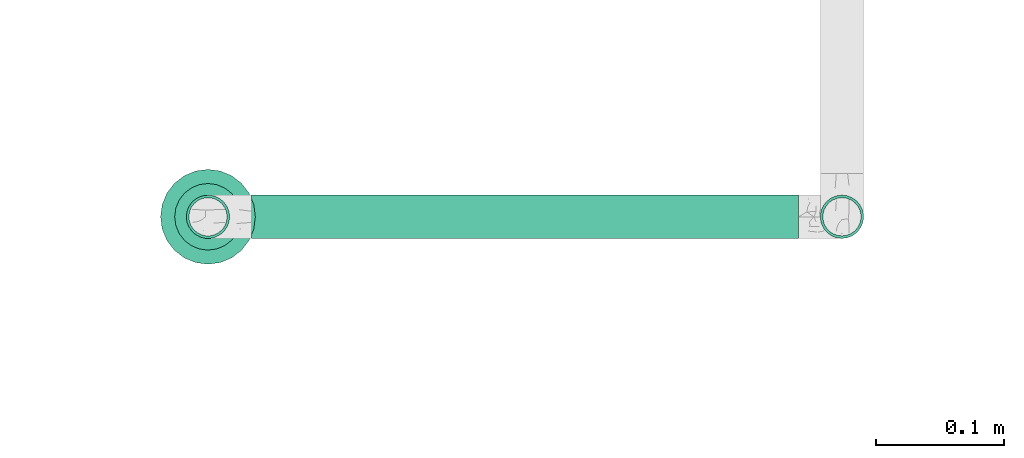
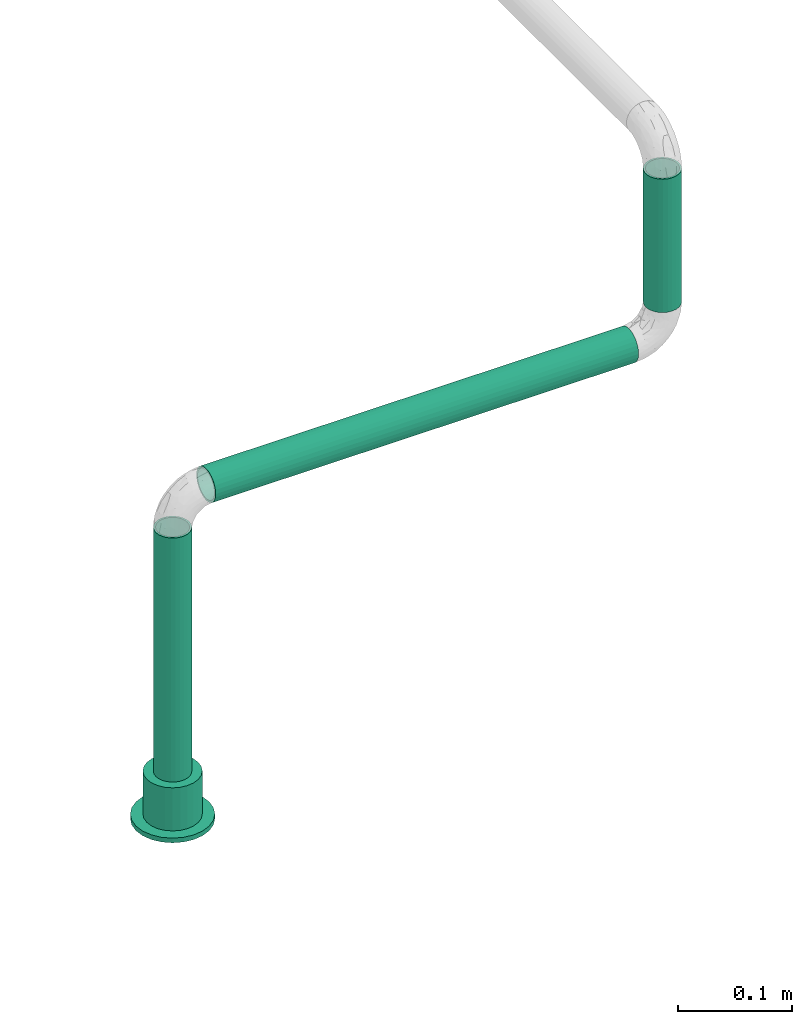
# One storey, part 30 of 95: 3 flow segments, 1 flow terminal.
"""IFC2X3 building model written with IfcOpenShell, lengths in millimetres."""

from ifc_helpers import new_model, entity, si_unit, converted_unit, derived_unit, direction, frame, origin_with_axes, origin_2d_with_axis, place, context, subcontext, project, spatial, hollow_circle, extrude, open_shell, surface_model, source, transform, mapped, type_object, element, save


model = new_model("IFC2X3")

# Units and contexts
model_context = context("Model", 3, precision=0.01, world=frame((0.0, 4.29681676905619e-09, 0.0)), true_north=direction((4.01073788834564e-13, 1.0)))
plan_context = context("Plan", 3, precision=0.01, world=frame((0.0, 4.29681676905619e-09, 0.0)), true_north=direction((4.01073788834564e-13, 1.0)))
body_context = subcontext(model_context, "Body", "Model", "MODEL_VIEW")
ifc_project = project(units=[converted_unit("PLANEANGLEUNIT", "DEGREE", entity("IfcPositiveLengthMeasure", 0.0174532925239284), si_unit("PLANEANGLEUNIT", "RADIAN"), dimensions=[0, 0, 0, 0, 0, 0, 0]), si_unit("AREAUNIT", "SQUARE_METRE"), si_unit("LENGTHUNIT", "METRE", prefix="MILLI"), si_unit("MASSUNIT", "GRAM", prefix="KILO"), si_unit("POWERUNIT", "WATT"), si_unit("PRESSUREUNIT", "PASCAL"), si_unit("FORCEUNIT", "NEWTON", prefix="KILO"), si_unit("ELECTRICVOLTAGEUNIT", "VOLT"), si_unit("ELECTRICCURRENTUNIT", "AMPERE"), si_unit("THERMODYNAMICTEMPERATUREUNIT", "DEGREE_CELSIUS"), si_unit("TIMEUNIT", "SECOND"), si_unit("VOLUMEUNIT", "CUBIC_METRE"), derived_unit("LINEARVELOCITYUNIT", [(si_unit("LENGTHUNIT", "METRE"), 1), (si_unit("TIMEUNIT", "SECOND"), -1)]), derived_unit("VOLUMETRICFLOWRATEUNIT", [(si_unit("VOLUMEUNIT", "CUBIC_METRE"), 1), (si_unit("TIMEUNIT", "SECOND"), -1)]), derived_unit("THERMALTRANSMITTANCEUNIT", [(si_unit("POWERUNIT", "WATT"), 1), (si_unit("THERMODYNAMICTEMPERATUREUNIT", "KELVIN"), -1), (si_unit("AREAUNIT", "SQUARE_METRE"), -1)]), derived_unit("SOUNDPRESSUREUNIT", [(si_unit("PRESSUREUNIT", "PASCAL"), 1)])], contexts=[model_context, plan_context])

# Site, building, storey
site_placement = place(None, frame((0.0, -4.29681676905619e-09, 0.0), z_axis=(0.0, 0.0, 1.0), x_axis=(1.0, 0.0, 0.0)))
site = spatial("IfcSite", under=ifc_project, at=site_placement, CompositionType="ELEMENT")
building_placement = place(site_placement, frame((0.0, 4.29681676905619e-09, 0.0), z_axis=(0.0, 0.0, 1.0), x_axis=(1.0, 0.0, 0.0)))
building = spatial("IfcBuilding", under=site, at=building_placement, Name="mc-building", CompositionType="ELEMENT")
storey_placement = place(building_placement, frame((0.0, 0.0, 210900.0), z_axis=(0.0, 0.0, 1.0), x_axis=(1.0, 0.0, 0.0)))
storey = spatial("IfcBuildingStorey", under=building, at=storey_placement, Name="Nivå F", CompositionType="ELEMENT", Elevation=210900.0)

# Flow segments
pipe_segment_type = type_object("IfcPipeSegmentType", Name="Stålrør normaltykke", PredefinedType="RIGIDSEGMENT")
shared_shape_1 = source(origin_with_axes(), body_context, "Body", "SweptSolid", [
    extrude(hollow_circle(Radius=16.9, WallThickness=2.0, at=origin_2d_with_axis()), frame((0.0, 0.0, 0.0), z_axis=(1.0, 0.0, 0.0), x_axis=(0.0, 1.0, 0.0)), (0.0, 0.0, 1.0), 427.2),
])
flow_segment_1_placement = place(storey_placement, frame((527354.1, 458598.02191, 4100.0), z_axis=(0.0, 0.0, 1.0), x_axis=(-1.0, 0.0, 0.0)))
element("IfcFlowSegment", 1, at=flow_segment_1_placement, inside=storey, type_object=pipe_segment_type, Name="Stålrør normaltykke", context=body_context, shape_type="MappedRepresentation", body=[
    mapped(shared_shape_1, transform((0.0, 0.0, 0.0), scale=1.0)),
])
shared_shape_2 = source(origin_with_axes(), body_context, "Body", "SweptSolid", [
    extrude(hollow_circle(Radius=16.9, WallThickness=2.0, at=origin_2d_with_axis()), frame((0.0, 0.0, 0.0), z_axis=(1.0, 0.0, 0.0), x_axis=(0.0, 1.0, 0.0)), (0.0, 0.0, 1.0), 296.9),
])
flow_segment_2_placement = place(storey_placement, frame((526893.09321, 458598.02191, 4066.20000000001), z_axis=(0.0, -1.0, 0.0), x_axis=(0.0, 0.0, -1.0)))
element("IfcFlowSegment", 2, at=flow_segment_2_placement, inside=storey, type_object=pipe_segment_type, Name="Stålrør normaltykke", context=body_context, shape_type="MappedRepresentation", body=[
    mapped(shared_shape_2, transform((0.0, 0.0, 0.0), scale=1.0)),
])
shared_shape_3 = source(origin_with_axes(), body_context, "Body", "SweptSolid", [
    extrude(hollow_circle(Radius=16.9, WallThickness=2.0, at=origin_2d_with_axis()), frame((0.0, 0.0, 0.0), z_axis=(1.0, 0.0, 0.0), x_axis=(0.0, 1.0, 0.0)), (0.0, 0.0, 1.0), 142.4),
])
flow_segment_3_placement = place(storey_placement, frame((527387.9, 458598.02191, 4276.20000000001), z_axis=(-1.0, 0.0, 0.0), x_axis=(0.0, 0.0, -1.0)))
element("IfcFlowSegment", 3, at=flow_segment_3_placement, inside=storey, type_object=pipe_segment_type, Name="Stålrør normaltykke", context=body_context, shape_type="MappedRepresentation", body=[
    mapped(shared_shape_3, transform((0.0, 0.0, 0.0), scale=1.0)),
])

# Flow terminal
fire_suppression_terminal_type = type_object("IfcFireSuppressionTerminalType", Name="68DGR-STD-SKJULT I HIMLING", PredefinedType="NOTDEFINED")
shared_shape_4 = source(origin_with_axes(), body_context, "Body", "SurfaceModel", [
    surface_model("IfcShellBasedSurfaceModel", [(-26.0, 0.0, -46.0), (-25.11407, -6.72929, -46.0), (-25.11407, -6.72929, 0.0), (6.72929, -25.11407, 0.0), (6.72929, -25.11407, -46.0), (13.0, -22.51666, -46.0), (22.51666, -13.0, -46.0), (22.51666, -13.0, 0.0), (18.38478, -18.38478, 0.0), (25.11407, -6.72929, 0.0), (25.11407, -6.72929, -46.0), (26.0, 0.0, -46.0), (26.0, 0.0, 0.0), (25.11407, 6.72929, -46.0), (22.51666, 13.0, 0.0), (25.11407, 6.72929, 0.0), (13.0, 22.51666, -46.0), (6.72929, 25.11407, -46.0), (6.72929, 25.11407, 0.0), (18.38478, 18.38478, 0.0), (22.51666, 13.0, -46.0), (-25.11407, 6.72929, 0.0), (-25.11407, 6.72929, -46.0), (-26.16295, -26.16295, 5.0), (35.73926, -9.57631, 5.0), (37.0, 0.0, 5.0), (13.0, 22.51666, 0.0), (-26.0, 0.0, 0.0), (-13.0, 22.51666, 0.0), (-6.72929, 25.11407, 0.0), (0.0, 26.0, 0.0), (-22.51666, 13.0, 0.0), (-18.38478, 18.38478, 0.0), (13.0, -22.51666, 0.0), (0.0, -26.0, 0.0), (-22.51666, -13.0, 0.0), (-18.38478, -18.38478, 0.0), (-13.0, -22.51666, 0.0), (-6.72929, -25.11407, 0.0), (0.0, -26.0, -46.0), (18.38478, -18.38478, -46.0), (-18.38478, -18.38478, -46.0), (-13.0, -22.51666, -46.0), (-6.72929, -25.11407, -46.0), (-22.51666, -13.0, -46.0), (18.38478, 18.38478, -46.0), (-22.51666, 13.0, -46.0), (-18.38478, 18.38478, -46.0), (-13.0, 22.51666, -46.0), (-6.72929, 25.11407, -46.0), (0.0, 26.0, -46.0), (18.5, 32.04294, 5.0), (9.57631, 35.73926, 5.0), (35.73926, 9.57631, 5.0), (26.16295, 26.16295, 5.0), (32.04294, 18.5, 5.0), (-35.73926, -9.57631, 5.0), (-18.5, 32.04294, 5.0), (-9.57631, 35.73926, 5.0), (0.0, 37.0, 5.0), (-32.04294, 18.5, 5.0), (-35.73926, 9.57631, 5.0), (-26.16295, 26.16295, 5.0), (-37.0, 0.0, 5.0), (32.04294, -18.5, 5.0), (0.0, -37.0, 5.0), (26.16295, -26.16295, 5.0), (18.5, -32.04294, 5.0), (9.57631, -35.73926, 5.0), (-9.57631, -35.73926, 5.0), (-32.04294, -18.5, 5.0), (-18.5, -32.04294, 5.0), (18.5, -32.04294, 0.0), (9.57631, -35.73926, 0.0), (0.0, -37.0, 0.0), (32.04294, -18.5, 0.0), (-26.16295, -26.16295, 0.0), (26.16295, -26.16295, 0.0), (-35.73926, 9.57631, 0.0), (-18.5, -32.04294, 0.0), (-9.57631, -35.73926, 0.0), (-32.04294, -18.5, 0.0), (-35.73926, -9.57631, 0.0), (-37.0, 0.0, 0.0), (35.73926, -9.57631, 0.0), (35.73926, 9.57631, 0.0), (32.04294, 18.5, 0.0), (18.5, 32.04294, 0.0), (9.57631, 35.73926, 0.0), (26.16295, 26.16295, 0.0), (-32.04294, 18.5, 0.0), (-26.16295, 26.16295, 0.0), (-9.57631, 35.73926, 0.0), (0.0, 37.0, 0.0), (-18.5, 32.04294, 0.0), (37.0, 0.0, 0.0)], [open_shell([[[0, 1, 2]], [[3, 4, 5]], [[6, 7, 8]], [[9, 7, 10]], [[11, 12, 9]], [[13, 14, 15]], [[15, 12, 11]], [[16, 17, 18]], [[19, 14, 20]], [[21, 22, 0]], [[23, 24, 25]], [[19, 26, 18]], [[19, 18, 21]], [[27, 15, 19]], [[14, 19, 15]], [[19, 21, 27]], [[28, 21, 29]], [[18, 30, 29]], [[31, 21, 32]], [[28, 32, 21]], [[29, 21, 18]], [[12, 15, 27]], [[8, 7, 9]], [[33, 8, 9]], [[34, 3, 33]], [[9, 34, 33]], [[27, 34, 9]], [[2, 35, 27]], [[36, 27, 35]], [[37, 38, 36]], [[34, 27, 36]], [[36, 38, 34]], [[12, 27, 9]], [[5, 4, 39]], [[5, 39, 22]], [[10, 6, 40]], [[5, 10, 40]], [[39, 41, 22]], [[42, 41, 43]], [[41, 39, 43]], [[1, 0, 44]], [[44, 0, 22]], [[22, 41, 44]], [[10, 5, 22]], [[45, 13, 10]], [[20, 13, 45]], [[17, 16, 45]], [[10, 22, 45]], [[45, 22, 17]], [[46, 47, 22]], [[48, 22, 47]], [[48, 49, 22]], [[49, 17, 22]], [[49, 50, 17]], [[11, 10, 13]], [[46, 22, 21]], [[46, 31, 47]], [[49, 48, 28]], [[32, 48, 47]], [[50, 49, 29]], [[21, 0, 27]], [[21, 31, 46]], [[31, 32, 47]], [[48, 32, 28]], [[28, 29, 49]], [[29, 30, 50]], [[16, 26, 45]], [[13, 20, 14]], [[19, 20, 45]], [[11, 13, 15]], [[30, 18, 17]], [[18, 26, 16]], [[26, 19, 45]], [[50, 30, 17]], [[11, 9, 10]], [[10, 7, 6]], [[3, 39, 4]], [[6, 8, 40]], [[3, 5, 33]], [[8, 33, 5]], [[5, 40, 8]], [[3, 34, 39]], [[42, 43, 38]], [[42, 37, 41]], [[1, 44, 35]], [[36, 44, 41]], [[34, 38, 43]], [[38, 37, 42]], [[37, 36, 41]], [[36, 35, 44]], [[1, 35, 2]], [[2, 27, 0]], [[39, 34, 43]], [[51, 52, 53]], [[54, 51, 55]], [[56, 52, 57]], [[55, 51, 53]], [[52, 56, 53]], [[58, 57, 59]], [[57, 52, 59]], [[60, 61, 62]], [[57, 62, 63]], [[62, 61, 63]], [[53, 23, 25]], [[64, 24, 65]], [[66, 64, 67]], [[65, 68, 67]], [[64, 65, 67]], [[69, 65, 24]], [[70, 23, 56]], [[56, 57, 63]], [[71, 69, 23]], [[23, 53, 56]], [[24, 23, 69]], [[72, 73, 74]], [[75, 72, 74]], [[76, 75, 74]], [[77, 72, 75]], [[75, 76, 78]], [[79, 76, 80]], [[76, 74, 80]], [[81, 82, 76]], [[82, 78, 76]], [[83, 78, 82]], [[75, 78, 84]], [[85, 84, 78]], [[86, 85, 87]], [[85, 88, 87]], [[89, 86, 87]], [[88, 85, 78]], [[90, 91, 78]], [[91, 88, 78]], [[92, 93, 94]], [[88, 91, 94]], [[88, 94, 93]], [[95, 84, 85]], [[83, 61, 78]], [[78, 60, 90]], [[94, 91, 57]], [[62, 91, 90]], [[92, 94, 58]], [[61, 60, 78]], [[83, 63, 61]], [[94, 57, 58]], [[57, 91, 62]], [[90, 60, 62]], [[92, 58, 59]], [[59, 93, 92]], [[93, 52, 88]], [[88, 51, 87]], [[86, 89, 55]], [[54, 89, 87]], [[85, 86, 53]], [[51, 54, 87]], [[88, 52, 51]], [[85, 53, 25]], [[53, 86, 55]], [[89, 54, 55]], [[85, 25, 95]], [[59, 52, 93]], [[95, 24, 84]], [[84, 64, 75]], [[72, 77, 67]], [[66, 77, 75]], [[73, 72, 68]], [[24, 64, 84]], [[95, 25, 24]], [[72, 67, 68]], [[67, 77, 66]], [[75, 64, 66]], [[73, 68, 65]], [[65, 74, 73]], [[74, 69, 80]], [[80, 71, 79]], [[81, 76, 70]], [[23, 76, 79]], [[82, 81, 56]], [[71, 23, 79]], [[80, 69, 71]], [[82, 56, 63]], [[56, 81, 70]], [[76, 23, 70]], [[82, 63, 83]], [[65, 69, 74]]])]),
])
flow_terminal_placement = place(storey_placement, frame((526893.09321, 458598.02191, 3759.89999999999), z_axis=(0.0, 0.0, -1.0), x_axis=(1.0, 0.0, 0.0)))
element("IfcFlowTerminal", 4, at=flow_terminal_placement, inside=storey, type_object=fire_suppression_terminal_type, Name="68DGR-STD-SKJULT I HIMLING", context=body_context, shape_type="MappedRepresentation", body=[
    mapped(shared_shape_4, transform((0.0, 0.0, 0.0), scale=1.0)),
])

save(model, "model.ifc")
